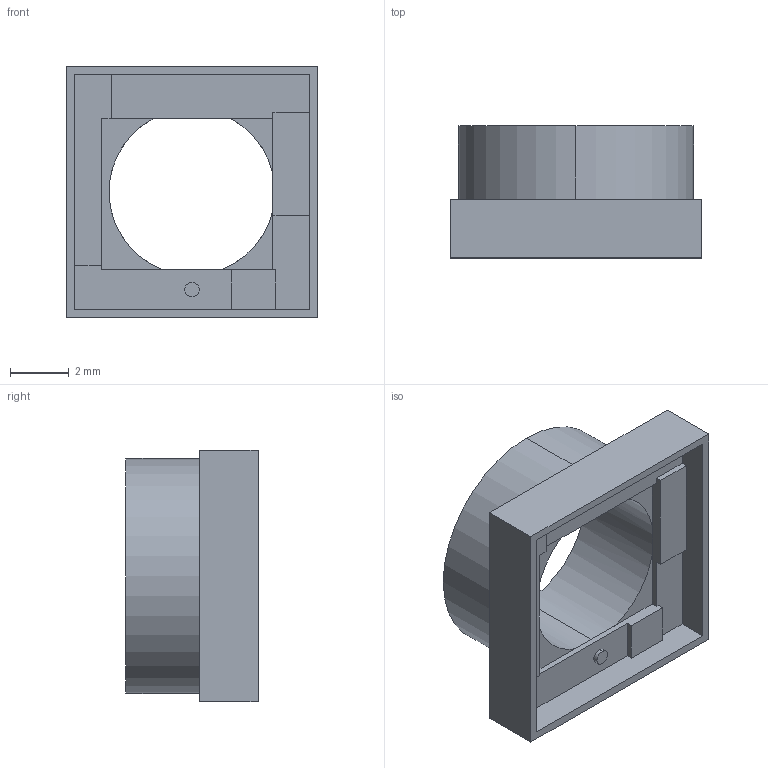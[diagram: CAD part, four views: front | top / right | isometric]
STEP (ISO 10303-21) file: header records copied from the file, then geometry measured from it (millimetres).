
FILE_DESCRIPTION (( 'STEP AP214' ), '1' );
FILE_NAME ('911028-4.STEP', '2020-07-02T03:38:45', ( 'WIN' ), ( '' ), 'SwSTEP 2.0', 'SolidWorks 2013', '' );
FILE_SCHEMA (( 'AUTOMOTIVE_DESIGN' ));
Length unit declared in the file: millimetre
Products named in the file (1): 911028-4
Bounding box: 8.56 x 4.5 x 8.56 mm (x, y, z)
Volume: 122.1 mm3; surface area: 325.7 mm2
Topology: 1 solids, 1 shells, 40 faces, 102 edges, 66 vertices
Faces by surface type: plane 34, cylinder 6
Entity records: 1256 total; most frequent: CARTESIAN_POINT 209, ORIENTED_EDGE 204, DIRECTION 202, EDGE_CURVE 102, LINE 84, VECTOR 84, VERTEX_POINT 66, AXIS2_PLACEMENT_3D 59
